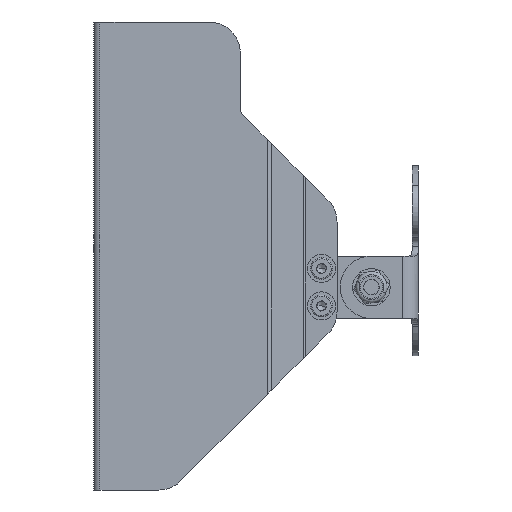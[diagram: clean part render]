
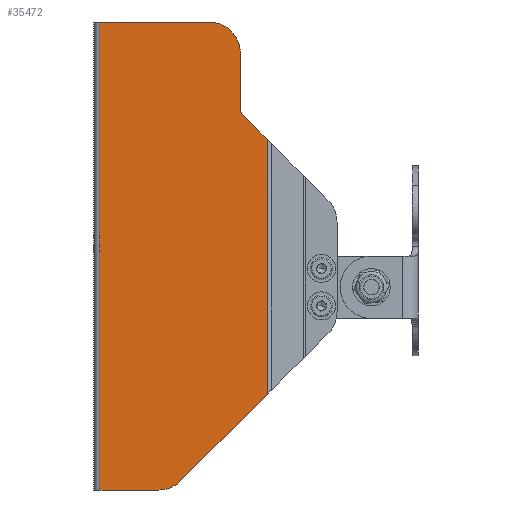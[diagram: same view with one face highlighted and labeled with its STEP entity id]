
A CAD part, left-side view. The second image highlights one B-rep face of the part: STEP entity #35472.
In plain terms, the highlighted planar face has unit normal (-1, 0, 0).
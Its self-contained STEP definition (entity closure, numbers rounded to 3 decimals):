
#305 = DIRECTION ( 'NONE',  ( -1., 0., 0. ) ) ;
#786 = CARTESIAN_POINT ( 'NONE',  ( -29., 42., 56. ) ) ;
#855 = ORIENTED_EDGE ( 'NONE', *, *, #16704, .T. ) ;
#1517 = CARTESIAN_POINT ( 'NONE',  ( -29., 41.414, 55.414 ) ) ;
#2025 = DIRECTION ( 'NONE',  ( 0., 0., 1. ) ) ;
#2094 = VECTOR ( 'NONE', #6003, 1000. ) ;
#2244 = AXIS2_PLACEMENT_3D ( 'NONE', #7050, #18314, #27165 ) ;
#2806 = VECTOR ( 'NONE', #16850, 1000. ) ;
#2951 = CARTESIAN_POINT ( 'NONE',  ( -29., 68.142, -55. ) ) ;
#3240 = DIRECTION ( 'NONE',  ( 0., 1., 0. ) ) ;
#3343 = VERTEX_POINT ( 'NONE', #20312 ) ;
#4104 = FACE_OUTER_BOUND ( 'NONE', #5182, .T. ) ;
#4234 = AXIS2_PLACEMENT_3D ( 'NONE', #10910, #8814, #22793 ) ;
#4420 = EDGE_CURVE ( 'NONE', #22680, #20072, #28510, .T. ) ;
#5076 = CIRCLE ( 'NONE', #27458, 2. ) ;
#5182 = EDGE_LOOP ( 'NONE', ( #23772, #23586, #26835, #22237, #26701, #20209, #10587, #855, #9275, #21239 ) ) ;
#5244 = CARTESIAN_POINT ( 'NONE',  ( -29., 64., -65. ) ) ;
#6003 = DIRECTION ( 'NONE',  ( 0., 0., 1. ) ) ;
#7050 = CARTESIAN_POINT ( 'NONE',  ( -29., 33.414, -65. ) ) ;
#8730 = CARTESIAN_POINT ( 'NONE',  ( -29., 87., -65. ) ) ;
#8814 = DIRECTION ( 'NONE',  ( -1., 0., 0. ) ) ;
#9275 = ORIENTED_EDGE ( 'NONE', *, *, #12305, .T. ) ;
#9294 = DIRECTION ( 'NONE',  ( 0., 0.707, 0.707 ) ) ;
#9968 = VERTEX_POINT ( 'NONE', #1517 ) ;
#10587 = ORIENTED_EDGE ( 'NONE', *, *, #4420, .F. ) ;
#10910 = CARTESIAN_POINT ( 'NONE',  ( -29., 52., 75. ) ) ;
#12169 = CARTESIAN_POINT ( 'NONE',  ( -29., 33.414, 47.414 ) ) ;
#12227 = LINE ( 'NONE', #26233, #17063 ) ;
#12305 = EDGE_CURVE ( 'NONE', #26131, #35157, #27547, .T. ) ;
#12429 = LINE ( 'NONE', #786, #24515 ) ;
#13009 = CIRCLE ( 'NONE', #22967, 10. ) ;
#13362 = CARTESIAN_POINT ( 'NONE',  ( -29., 33.414, -34.414 ) ) ;
#14081 = CARTESIAN_POINT ( 'NONE',  ( -29., 61.071, -62.071 ) ) ;
#14580 = DIRECTION ( 'NONE',  ( 0., 0., 1. ) ) ;
#15381 = EDGE_CURVE ( 'NONE', #23632, #16046, #24311, .T. ) ;
#16046 = VERTEX_POINT ( 'NONE', #20238 ) ;
#16213 = CARTESIAN_POINT ( 'NONE',  ( -29., 42., -65. ) ) ;
#16254 = EDGE_CURVE ( 'NONE', #3343, #26554, #12227, .T. ) ;
#16704 = EDGE_CURVE ( 'NONE', #22680, #26131, #13009, .T. ) ;
#16714 = CARTESIAN_POINT ( 'NONE',  ( -29., 87., 85. ) ) ;
#16850 = DIRECTION ( 'NONE',  ( 0., -0.707, 0.707 ) ) ;
#17063 = VECTOR ( 'NONE', #17783, 1000. ) ;
#17752 = VERTEX_POINT ( 'NONE', #12169 ) ;
#17783 = DIRECTION ( 'NONE',  ( 0., 1., 0. ) ) ;
#17794 = CARTESIAN_POINT ( 'NONE',  ( -29., 33.414, -65. ) ) ;
#18314 = DIRECTION ( 'NONE',  ( 1., 0., 0. ) ) ;
#20072 = VERTEX_POINT ( 'NONE', #30694 ) ;
#20135 = CIRCLE ( 'NONE', #4234, 10. ) ;
#20209 = ORIENTED_EDGE ( 'NONE', *, *, #23221, .F. ) ;
#20238 = CARTESIAN_POINT ( 'NONE',  ( -29., 42., 75. ) ) ;
#20312 = CARTESIAN_POINT ( 'NONE',  ( -29., 52., 85. ) ) ;
#21239 = ORIENTED_EDGE ( 'NONE', *, *, #26908, .T. ) ;
#21276 = VECTOR ( 'NONE', #2025, 1000. ) ;
#22237 = ORIENTED_EDGE ( 'NONE', *, *, #29404, .T. ) ;
#22680 = VERTEX_POINT ( 'NONE', #28311 ) ;
#22793 = DIRECTION ( 'NONE',  ( 0., -1., 0. ) ) ;
#22967 = AXIS2_PLACEMENT_3D ( 'NONE', #2951, #305, #28750 ) ;
#23121 = VECTOR ( 'NONE', #3240, 1000. ) ;
#23221 = EDGE_CURVE ( 'NONE', #20072, #26554, #25690, .T. ) ;
#23301 = CARTESIAN_POINT ( 'NONE',  ( -29., 42., 56.828 ) ) ;
#23406 = EDGE_CURVE ( 'NONE', #9968, #23632, #5076, .T. ) ;
#23586 = ORIENTED_EDGE ( 'NONE', *, *, #23406, .T. ) ;
#23603 = LINE ( 'NONE', #34911, #32222 ) ;
#23632 = VERTEX_POINT ( 'NONE', #23301 ) ;
#23741 = DIRECTION ( 'NONE',  ( 1., 0., 0. ) ) ;
#23772 = ORIENTED_EDGE ( 'NONE', *, *, #23917, .T. ) ;
#23917 = EDGE_CURVE ( 'NONE', #17752, #9968, #12429, .T. ) ;
#24311 = LINE ( 'NONE', #16213, #21276 ) ;
#24515 = VECTOR ( 'NONE', #9294, 1000. ) ;
#25690 = LINE ( 'NONE', #8730, #2094 ) ;
#26131 = VERTEX_POINT ( 'NONE', #14081 ) ;
#26233 = CARTESIAN_POINT ( 'NONE',  ( -29., 33.414, 85. ) ) ;
#26554 = VERTEX_POINT ( 'NONE', #16714 ) ;
#26701 = ORIENTED_EDGE ( 'NONE', *, *, #16254, .T. ) ;
#26835 = ORIENTED_EDGE ( 'NONE', *, *, #15381, .T. ) ;
#26908 = EDGE_CURVE ( 'NONE', #35157, #17752, #23603, .T. ) ;
#27165 = DIRECTION ( 'NONE',  ( 0., -1., 0. ) ) ;
#27458 = AXIS2_PLACEMENT_3D ( 'NONE', #32076, #23741, #29307 ) ;
#27547 = LINE ( 'NONE', #5244, #2806 ) ;
#28311 = CARTESIAN_POINT ( 'NONE',  ( -29., 68.142, -65. ) ) ;
#28510 = LINE ( 'NONE', #17794, #23121 ) ;
#28750 = DIRECTION ( 'NONE',  ( 0., -1., 0. ) ) ;
#29307 = DIRECTION ( 'NONE',  ( 0., -1., 0. ) ) ;
#29404 = EDGE_CURVE ( 'NONE', #16046, #3343, #20135, .T. ) ;
#30694 = CARTESIAN_POINT ( 'NONE',  ( -29., 87., -65. ) ) ;
#32076 = CARTESIAN_POINT ( 'NONE',  ( -29., 40., 56.828 ) ) ;
#32222 = VECTOR ( 'NONE', #14580, 1000. ) ;
#32315 = PLANE ( 'NONE',  #2244 ) ;
#34911 = CARTESIAN_POINT ( 'NONE',  ( -29., 33.414, -65. ) ) ;
#35157 = VERTEX_POINT ( 'NONE', #13362 ) ;
#35472 = ADVANCED_FACE ( 'NONE', ( #4104 ), #32315, .F. ) ;
